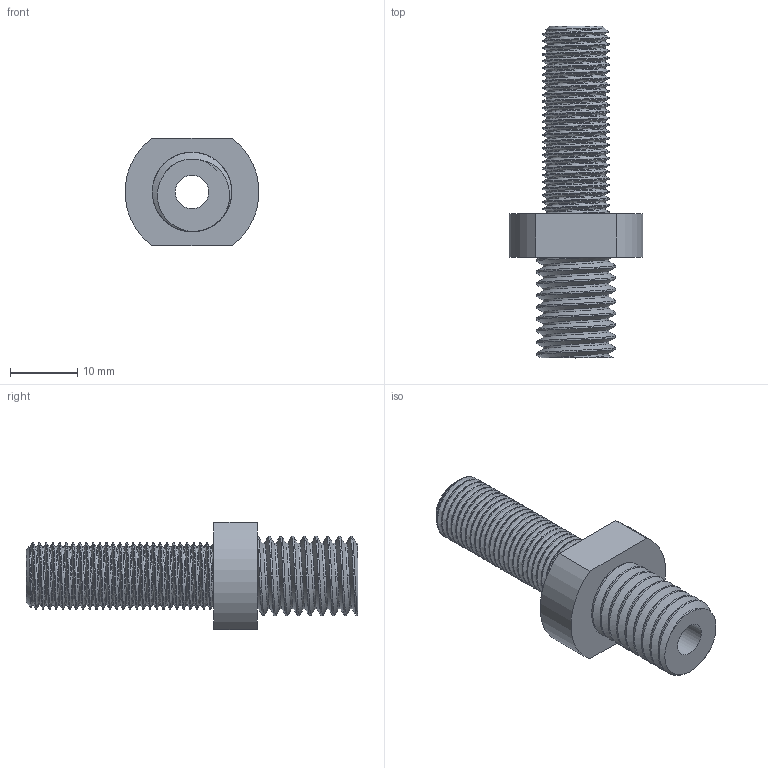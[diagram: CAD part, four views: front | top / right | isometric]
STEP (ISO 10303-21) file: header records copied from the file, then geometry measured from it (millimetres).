
FILE_DESCRIPTION(/* description */ (''),/* implementation_level */ '2;1');
FILE_NAME(/* name */ '100x15 disc hub to 120mm FG Axle Bolt.step',/* time_stamp */ '2025-11-18T18:57:58-08:00',/* author */ (''),/* organization */ (''),/* preprocessor_version */ 'ST-DEVELOPER v20.1',/* originating_system */ 'Autodesk Translation Framework v14.21.0.0',/* authorisation */ '');
FILE_SCHEMA (('AUTOMOTIVE_DESIGN { 1 0 10303 214 3 1 1 }'));
Length unit declared in the file: millimetre
Products named in the file (1): 100/12 disc hub to 120mm FG Axle
Bounding box: 19.93 x 49.5 x 16 mm (x, y, z)
Volume: 4125.5 mm3; surface area: 3873.1 mm2
Topology: 1 solids, 1 shells, 89 faces, 255 edges, 170 vertices
Faces by surface type: cylinder 78, plane 6, bspline 4, cone 1
Full cylindrical faces by diameter (mm): 5 x1, 8.744 x26, 9.836 x7, 9.884 x26, 11.834 x8
Entity records: 11327 total; most frequent: CARTESIAN_POINT 9271, ORIENTED_EDGE 510, DIRECTION 283, EDGE_CURVE 255, VERTEX_POINT 170, B_SPLINE_CURVE_WITH_KNOTS 159, AXIS2_PLACEMENT_3D 101, EDGE_LOOP 93
